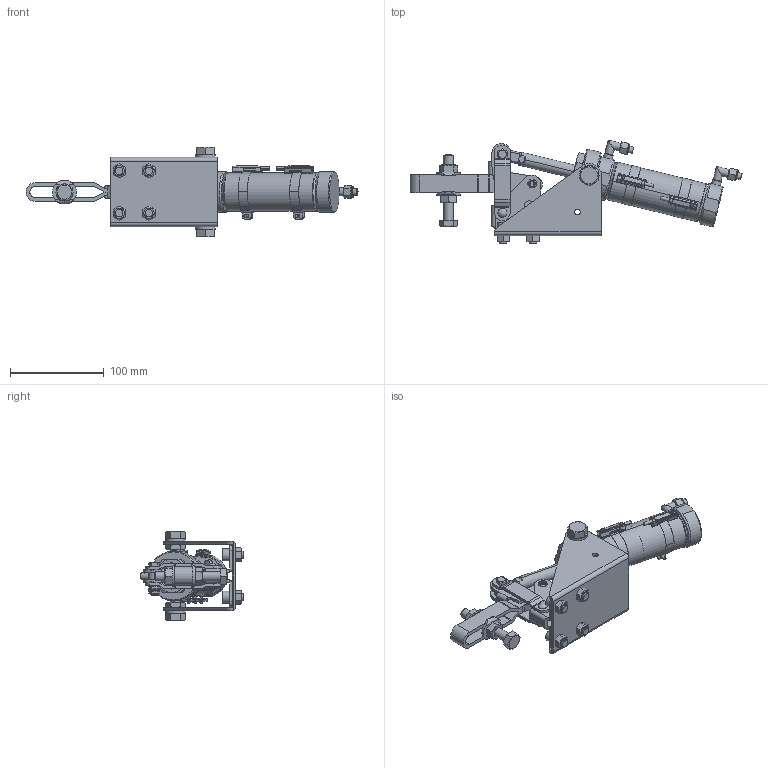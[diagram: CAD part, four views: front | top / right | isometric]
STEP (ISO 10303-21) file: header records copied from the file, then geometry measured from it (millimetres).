
FILE_DESCRIPTION(/* description */ (''),/* implementation_level */ '2;1');
FILE_NAME(/* name */ 'D:\3D作業領域\3D\AC650S\No.AC650S.stp',/* time_stamp */ '2021-11-09T11:47:18+09:00',/* author */ ('y-takahashi'),/* organization */ (''),/* preprocessor_version */ 'ST-DEVELOPER v18',/* originating_system */ 'Autodesk Inventor 2020',/* authorisation */ '');
FILE_SCHEMA (('AUTOMOTIVE_DESIGN { 1 0 10303 214 3 1 1 }'));
Length unit declared in the file: millimetre
Products named in the file (35): AC650S; AC650フレーム; AC650フレーム_1; コンタルナットM12; AC650シリンダー支持ボルト; AC650SW; HV650ベース1（リベットアセンブリ済）; HV650ベース1; リベット6×15（ナベ平中空）; HV650アームa; HV650リンク1（リベットアセンブリ済）; HV650リンク1; リベット6×14.8（ナベ平中空）; AC650レバー; AC650レバー_1; リベット6×21（ナベ平中空）; AC650シリンダー連結ボルト; M6SW; コンタルナットM6; AC650Sシリンダー(CMK2-00-40-62-T0H-D
-V); CMK2-00-40-62-T0H-D-V_4; CMK2-00-40-62-T0H-D-V_5; CMK2-00-40-62-T0H-D-V_6; AC650S取付金具リング; 100SAC650S取付金具ヘッドボルト; CMK2-00-40-62-T0H-D-V_1; ニップルL型; ニップルL型_1; 袋ナット; スリーブb; M10×70ボルト; M10丸座金; M10ナット; キャップスクリューM8; M8ナット
Assembly tree (46 placements, depth 3):
  AC650S
    AC650フレーム
      AC650フレーム_1
      コンタルナットM12  x2
      AC650シリンダー支持ボルト  x2
      AC650SW  x2
    HV650ベース1（リベットアセンブリ済）
      HV650ベース1
      リベット6×15（ナベ平中空）
    HV650アームa
    HV650リンク1（リベットアセンブリ済）
      HV650リンク1
      リベット6×14.8（ナベ平中空）
    AC650レバー
      AC650レバー_1
      リベット6×21（ナベ平中空）
      AC650シリンダー連結ボルト
      M6SW
      コンタルナットM6  x2
    AC650Sシリンダー(CMK2-00-40-62-T0H-D
-V)
      CMK2-00-40-62-T0H-D-V_4
      CMK2-00-40-62-T0H-D-V_5
      CMK2-00-40-62-T0H-D-V_6
      AC650S取付金具リング
      100SAC650S取付金具ヘッドボルト
    CMK2-00-40-62-T0H-D-V_1
    ニップルL型  x2
      ニップルL型_1
      袋ナット
      スリーブb
    M10×70ボルト
    M10丸座金
    M10ナット  x2
    キャップスクリューM8  x4
    M8ナット  x4
Bounding box: 354.51 x 110.72 x 96 mm (x, y, z)
Volume: 331835.7 mm3; surface area: 184121.1 mm2
Topology: 44 solids, 44 shells, 880 faces, 2228 edges, 1478 vertices
Faces by surface type: plane 497, cylinder 297, cone 73, torus 6, bspline 4, sphere 3
Full cylindrical faces by diameter (mm): 3 x2, 4 x5, 4.5 x4, 5.9 x3, 5.98 x3, 6 x17, 6.1 x1, 6.5 x3, 7 x2, 7.3 x2, 8 x8, 8.2 x2, 8.3 x4, 8.4 x4, 8.5 x4, 9.2 x3, 9.5 x1, 9.7 x4, 10 x9, 10.4 x2, 11 x2, 12 x5, 12.1 x2, 12.5 x2, 13 x4, 21.2 x2, 26 x1, 30 x2, 40 x1, 53.5 x1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
Entity records: 24390 total; most frequent: CARTESIAN_POINT 4823, DIRECTION 3985, ORIENTED_EDGE 3728, EDGE_CURVE 1864, AXIS2_PLACEMENT_3D 1465, VERTEX_POINT 1236, LINE 1055, VECTOR 1055
